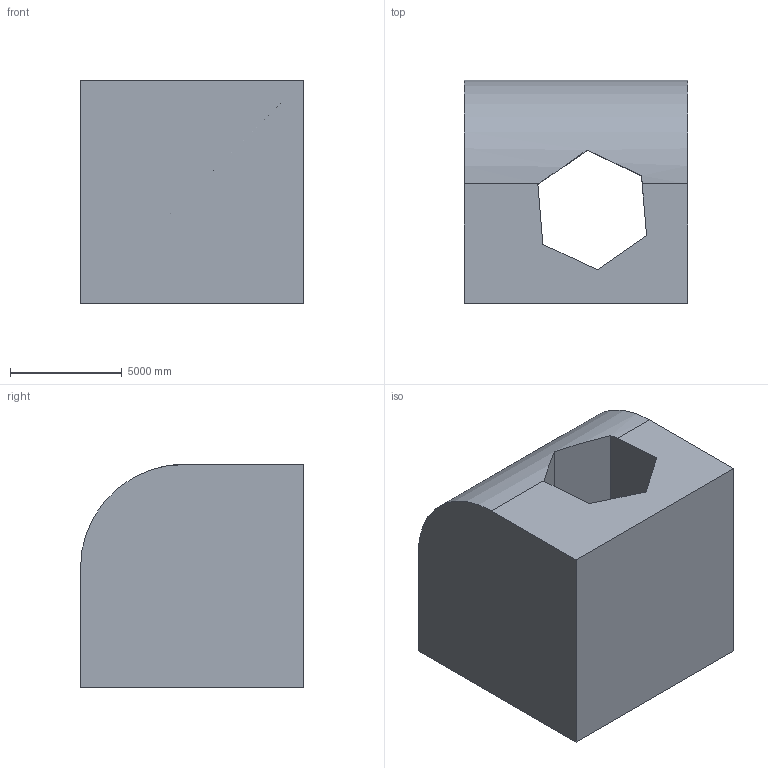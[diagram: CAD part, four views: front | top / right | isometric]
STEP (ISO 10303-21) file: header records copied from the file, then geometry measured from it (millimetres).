
FILE_DESCRIPTION (( 'STEP AP203' ), '1' );
FILE_NAME ('33.STEP', '2022-07-28T13:27:14', ( 'user' ), ( '' ), 'SwSTEP 2.0', 'SolidWorks 2021', '' );
FILE_SCHEMA (( 'CONFIG_CONTROL_DESIGN' ));
Length unit declared in the file: centimetre
Products named in the file (1): 33
Bounding box: 10000 x 10000 x 10000 mm (x, y, z)
Volume: 765681319910.6 mm3; surface area: 694071830.8 mm2
Topology: 1 solids, 1 shells, 13 faces, 36 edges, 24 vertices
Faces by surface type: plane 12, cylinder 1
Entity records: 493 total; most frequent: CARTESIAN_POINT 83, ORIENTED_EDGE 72, DIRECTION 63, EDGE_CURVE 36, LINE 31, VECTOR 31, VERTEX_POINT 24, AXIS2_PLACEMENT_3D 16
